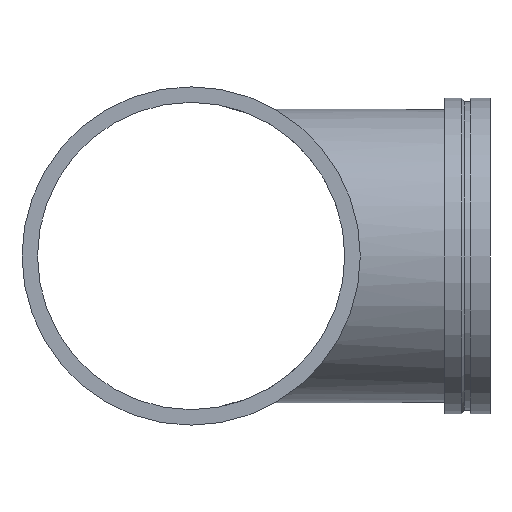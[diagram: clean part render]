
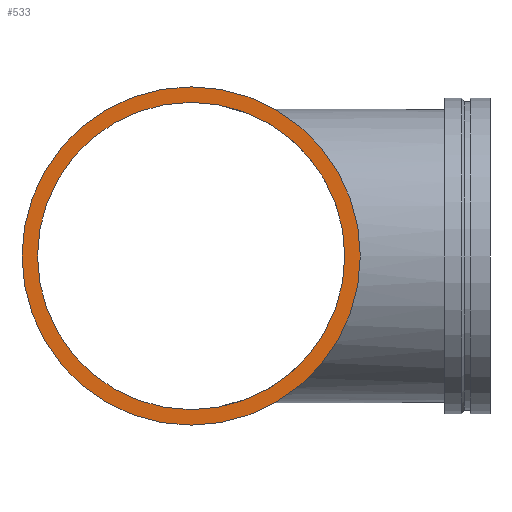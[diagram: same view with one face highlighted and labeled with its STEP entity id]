
A CAD part, left-side view. The second image highlights one B-rep face of the part: STEP entity #533.
In plain terms, the highlighted planar face has unit normal (-1, 0, 0).
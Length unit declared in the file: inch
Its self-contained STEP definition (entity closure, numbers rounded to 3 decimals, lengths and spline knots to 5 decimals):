
#58=FACE_BOUND('',#128,.T.);
#67=PLANE('',#626);
#92=FACE_OUTER_BOUND('',#127,.T.);
#127=EDGE_LOOP('',(#465,#466));
#128=EDGE_LOOP('',(#467,#468));
#151=CIRCLE('',#587,15.);
#152=CIRCLE('',#588,15.);
#175=CIRCLE('',#624,13.625);
#176=CIRCLE('',#625,13.625);
#239=VERTEX_POINT('',#1161);
#240=VERTEX_POINT('',#1163);
#263=VERTEX_POINT('',#1230);
#264=VERTEX_POINT('',#1232);
#299=EDGE_CURVE('',#239,#240,#151,.T.);
#300=EDGE_CURVE('',#240,#239,#152,.T.);
#331=EDGE_CURVE('',#264,#263,#175,.T.);
#332=EDGE_CURVE('',#263,#264,#176,.T.);
#465=ORIENTED_EDGE('',*,*,#300,.F.);
#466=ORIENTED_EDGE('',*,*,#299,.F.);
#467=ORIENTED_EDGE('',*,*,#331,.T.);
#468=ORIENTED_EDGE('',*,*,#332,.T.);
#533=ADVANCED_FACE('',(#92,#58),#67,.T.);
#587=AXIS2_PLACEMENT_3D('',#1164,#716,#717);
#588=AXIS2_PLACEMENT_3D('',#1165,#718,#719);
#624=AXIS2_PLACEMENT_3D('',#1233,#798,#799);
#625=AXIS2_PLACEMENT_3D('',#1234,#800,#801);
#626=AXIS2_PLACEMENT_3D('',#1235,#802,#803);
#716=DIRECTION('center_axis',(1.,0.,0.));
#717=DIRECTION('ref_axis',(0.,0.,1.));
#718=DIRECTION('center_axis',(1.,0.,0.));
#719=DIRECTION('ref_axis',(0.,0.,1.));
#798=DIRECTION('center_axis',(1.,0.,0.));
#799=DIRECTION('ref_axis',(0.,0.,1.));
#800=DIRECTION('center_axis',(1.,0.,0.));
#801=DIRECTION('ref_axis',(0.,0.,1.));
#802=DIRECTION('center_axis',(-1.,0.,0.));
#803=DIRECTION('ref_axis',(0.,0.,-1.));
#1161=CARTESIAN_POINT('',(-26.5,15.,0.));
#1163=CARTESIAN_POINT('',(-26.5,-15.,0.));
#1164=CARTESIAN_POINT('Origin',(-26.5,0.,0.));
#1165=CARTESIAN_POINT('Origin',(-26.5,0.,0.));
#1230=CARTESIAN_POINT('',(-26.5,13.625,0.));
#1232=CARTESIAN_POINT('',(-26.5,-13.625,0.));
#1233=CARTESIAN_POINT('Origin',(-26.5,0.,0.));
#1234=CARTESIAN_POINT('Origin',(-26.5,0.,0.));
#1235=CARTESIAN_POINT('Origin',(-26.5,-15.,0.));
